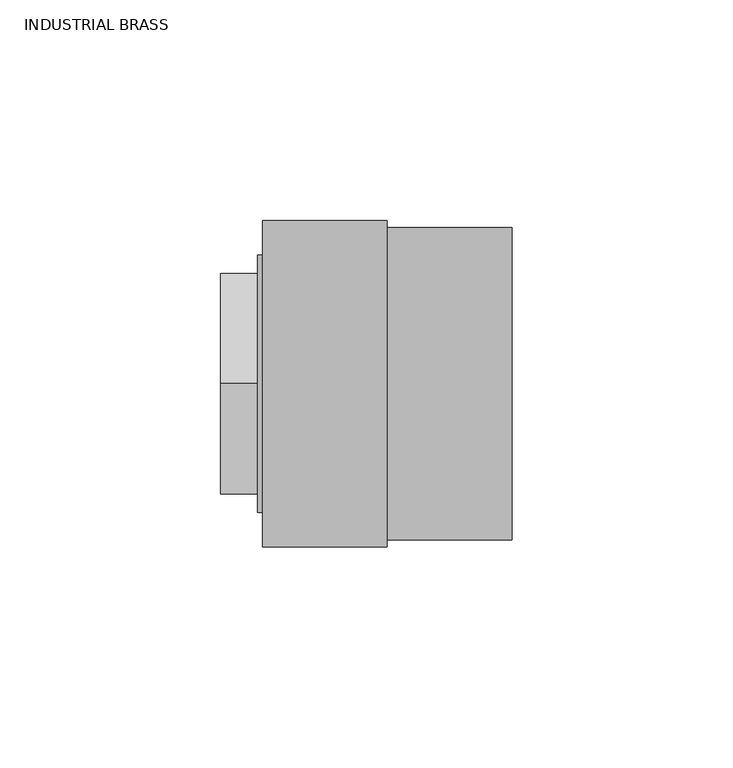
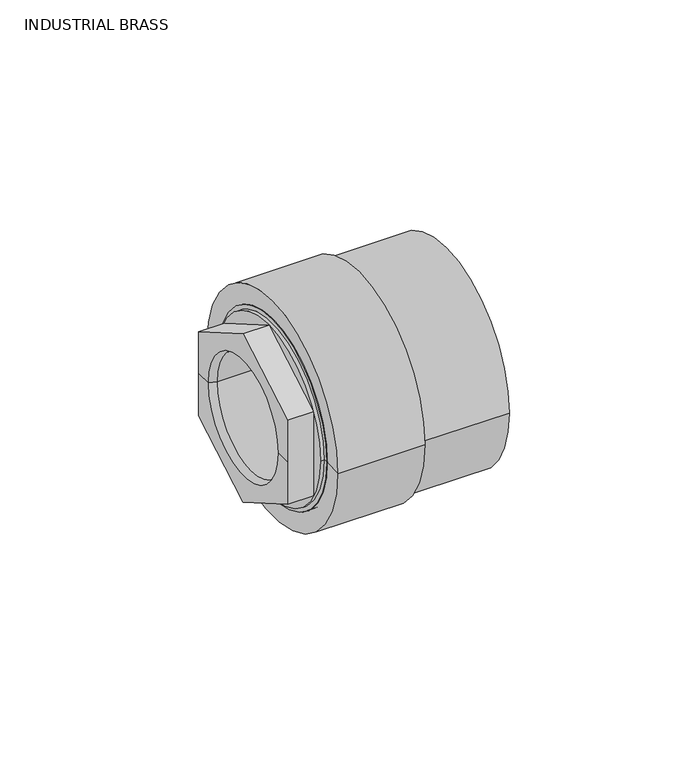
"""IFC4 building model written with IfcOpenShell, lengths in millimetres: valve geometry, Aquatherm - Transition Piece - F HEX : INDUSTRIAL BRASS."""

import ifcopenshell
import ifcopenshell.guid

model = None  # the IFC model being written
_history = None  # IfcOwnerHistory: only IFC2X3 demands one
_inside = {}  # id of a spatial element -> (the spatial element, [elements in it])
_under = {}  # id of a project, library or spatial element -> (it, [spatial elements below it])
_declared = {}  # id of a project -> (the project, [libraries it declares])
_typed = {}  # id of a type object -> (the type object, [elements of that type])
_made_of = {}  # id of a material, layer set ... -> (it, [elements and type objects made of it])


def new_model(schema):
    """Start an empty IFC model of exactly this schema.

    Asked for "IFC4X3", IfcOpenShell would pick the latest addendum, in which some entities
    have other attributes; the version numbers below select the first issue.
    IFC2X3 requires an IfcOwnerHistory on every rooted entity: one is made here for all.
    """
    global model, _history
    if schema == "IFC4X3":
        model = ifcopenshell.file(schema_version=(4, 3, 0, 0))
    else:
        model = ifcopenshell.file(schema=schema)
    _inside.clear()
    _under.clear()
    _declared.clear()
    _typed.clear()
    _made_of.clear()
    _history = None
    if model.schema == "IFC2X3":
        org = make("IfcOrganization", Name="unknown")
        user = make(
            "IfcPersonAndOrganization",
            ThePerson=make("IfcPerson", FamilyName="unknown"),
            TheOrganization=org,
        )
        app = make(
            "IfcApplication",
            ApplicationDeveloper=org,
            Version="unknown",
            ApplicationFullName="unknown",
            ApplicationIdentifier="unknown",
        )
        _history = make(
            "IfcOwnerHistory",
            OwningUser=user,
            OwningApplication=app,
            ChangeAction="ADDED",
            CreationDate=0,
        )
    return model


def make(cls, **values):
    """One entity of the class cls with the attributes given. An attribute that is None is left unset."""
    return model.create_entity(
        cls, **{name: value for name, value in values.items() if value is not None}
    )


def rooted(cls, **values):
    """An entity with a GlobalId (a new one), such as an element, a storey or a relation."""
    return make(cls, GlobalId=ifcopenshell.guid.new(), OwnerHistory=_history, **values)


def si_unit(unit_type, name, prefix=None):
    """IfcSIUnit, for example si_unit("LENGTHUNIT", "METRE", prefix="MILLI")."""
    return make("IfcSIUnit", UnitType=unit_type, Prefix=prefix, Name=name)


def assignment(units):
    """IfcUnitAssignment: the units of a project."""
    return None if units is None else make("IfcUnitAssignment", Units=units)


def point(xyz):
    """IfcCartesianPoint."""
    return None if xyz is None else make("IfcCartesianPoint", Coordinates=xyz)


def direction(xyz):
    """IfcDirection."""
    return None if xyz is None else make("IfcDirection", DirectionRatios=xyz)


def frame(location, z_axis=None, x_axis=None):
    """IfcAxis2Placement3D, a coordinate frame: its origin and axes. An axis left out is left unset."""
    return make(
        "IfcAxis2Placement3D",
        Location=point(location),
        Axis=direction(z_axis),
        RefDirection=direction(x_axis),
    )


def origin():
    """The frame at (0, 0, 0) with its axes left unset."""
    return frame((0.0, 0.0, 0.0))


def place(relative_to, where):
    """IfcLocalPlacement: puts the frame where relative to a parent placement (None: the world)."""
    return make(
        "IfcLocalPlacement", PlacementRelTo=relative_to, RelativePlacement=where
    )


def context(
    kind, dimensions, precision=None, world=None, true_north=None, identifier=None
):
    """IfcGeometricRepresentationContext, for example the 3D "Model" context."""
    return make(
        "IfcGeometricRepresentationContext",
        ContextIdentifier=identifier,
        ContextType=kind,
        CoordinateSpaceDimension=dimensions,
        Precision=precision,
        WorldCoordinateSystem=world,
        TrueNorth=true_north,
    )


def project(units=None, contexts=None):
    """IfcProject with its units and contexts."""
    return rooted(
        "IfcProject",
        Name="project",
        RepresentationContexts=contexts,
        UnitsInContext=assignment(units),
    )


def spatial(cls, under=None, at=None, **own):
    """A site, building, storey or space (cls), placed at a placement, below another one or the project."""
    s = rooted(cls, ObjectPlacement=at, **own)
    if under is not None:
        _under.setdefault(under.id(), (under, []))[1].append(s)
    return s


def polyline(points):
    """IfcPolyline through the points."""
    return make("IfcPolyline", Points=[point(p) for p in points])


def circle_curve(where, radius):
    """IfcCircle in the frame where."""
    return make("IfcCircle", Position=where, Radius=radius)


def shape(context_of_items, identifier, shape_type, items):
    """IfcShapeRepresentation: the items that make up one representation, for example the "Body"."""
    return make(
        "IfcShapeRepresentation",
        ContextOfItems=context_of_items,
        RepresentationIdentifier=identifier,
        RepresentationType=shape_type,
        Items=items,
    )


def source(mapping_origin, context_of_items, identifier, shape_type, items):
    """IfcRepresentationMap: a shape defined once, which mapped items show again and again."""
    return make(
        "IfcRepresentationMap",
        MappingOrigin=mapping_origin,
        MappedRepresentation=shape(context_of_items, identifier, shape_type, items),
    )


def transform(
    local_origin,
    x_axis=None,
    y_axis=None,
    z_axis=None,
    scale=None,
    scale2=None,
    scale3=None,
    uniform=True,
):
    """IfcCartesianTransformationOperator3D, or its non-uniform kind. x_axis, y_axis, z_axis: its Axis1, 2, 3."""
    if uniform:
        return make(
            "IfcCartesianTransformationOperator3D",
            Axis1=direction(x_axis),
            Axis2=direction(y_axis),
            LocalOrigin=point(local_origin),
            Scale=scale,
            Axis3=direction(z_axis),
        )
    return make(
        "IfcCartesianTransformationOperator3DnonUniform",
        Axis1=direction(x_axis),
        Axis2=direction(y_axis),
        LocalOrigin=point(local_origin),
        Scale=scale,
        Axis3=direction(z_axis),
        Scale2=scale2,
        Scale3=scale3,
    )


def mapped(mapping_source, mapping_target):
    """IfcMappedItem: shows the shape of a source again, moved by a transform."""
    return make(
        "IfcMappedItem", MappingSource=mapping_source, MappingTarget=mapping_target
    )


def made_of(thing, what):
    """Note that an element or type object is made of a material, layer set ...; save() writes the relation."""
    if what is not None:
        _made_of.setdefault(what.id(), (what, []))[1].append(thing)
    return thing


def element(
    cls,
    number,
    at=None,
    inside=None,
    cuts=None,
    type_object=None,
    material=None,
    context=None,
    identifier="Body",
    shape_type=None,
    held_by="IfcProductDefinitionShape",
    body=None,
    shapes=None,
    **own,
):
    """One element of the class cls, such as IfcWall. Its Tag is "e" and its number.

    at: its placement. inside: the storey or other place that contains it. cuts: it is an
    opening in that element (IfcRelVoidsElement). A single representation is given by context,
    identifier, shape_type and body (its items); several are given by shapes. held_by: the class
    of the entity that holds the representations. save() writes the other relations.
    """
    e = rooted(cls, Tag="e%d" % number, ObjectPlacement=at, **own)
    if body is not None:
        shapes = [shape(context, identifier, shape_type, body)]
    if shapes is not None:
        e.Representation = make(held_by, Representations=shapes)
    if inside is not None:
        _inside.setdefault(inside.id(), (inside, []))[1].append(e)
    if cuts is not None:
        rooted(
            "IfcRelVoidsElement", RelatingBuildingElement=cuts, RelatedOpeningElement=e
        )
    if type_object is not None:
        _typed.setdefault(type_object.id(), (type_object, []))[1].append(e)
    return made_of(e, material)


def aggregate(whole, parts):
    """IfcRelAggregates: a whole, such as a stair, and the parts it consists of."""
    return rooted("IfcRelAggregates", RelatingObject=whole, RelatedObjects=parts)


def save(model, path):
    """Write the relations noted so far, then the file.

    IfcRelAggregates (storeys below a building ...), IfcRelContainedInSpatialStructure (elements
    in a storey), IfcRelDefinesByType, IfcRelAssociatesMaterial and IfcRelDeclares: one each for
    every whole, place, type object, material and project.
    """
    for whole, parts in _under.values():
        aggregate(whole, parts)
    for where, things in _inside.values():
        rooted(
            "IfcRelContainedInSpatialStructure",
            RelatedElements=things,
            RelatingStructure=where,
        )
    for kind, things in _typed.values():
        rooted("IfcRelDefinesByType", RelatedObjects=things, RelatingType=kind)
    for what, things in _made_of.values():
        rooted("IfcRelAssociatesMaterial", RelatedObjects=things, RelatingMaterial=what)
    for by, libraries in _declared.values():
        rooted("IfcRelDeclares", RelatingContext=by, RelatedDefinitions=libraries)
    model.write(path)


def plane_surface(at):
    """IfcPlane: the flat surface through the origin of the frame at, square to its z axis."""
    return make("IfcPlane", Position=at)


def cylinder_surface(at, radius):
    """IfcCylindricalSurface: all points at the distance radius from the z axis of the frame at."""
    return make("IfcCylindricalSurface", Position=at, Radius=radius)


def revolved_surface(curve, axis_point, axis_direction):
    """IfcSurfaceOfRevolution: the curve turned about the line through axis_point along axis_direction."""
    return make(
        "IfcSurfaceOfRevolution",
        SweptCurve=make("IfcArbitraryOpenProfileDef", ProfileType="CURVE", Curve=curve),
        AxisPosition=make("IfcAxis1Placement", Location=point(axis_point), Axis=direction(axis_direction)),
    )


def advanced_brep(points, edges, surfaces, faces):
    """IfcAdvancedBrep: a solid bounded by faces that lie on surfaces and meet in shared edges.

    An edge is (start, end): straight between two places in points (the first is 0);
    or (start, end, curve); or (start, end, curve, False) where it runs against its curve.
    A face is (place in surfaces, loops), or (place, loops, False) where it looks against
    its surface's normal. A loop lists edges by number (the first is 1), with a minus sign
    where the edge is run from its end to its start. The first loop is the outer one.
    """
    corners = [point(p) for p in points]
    vertices = [make("IfcVertexPoint", VertexGeometry=c) for c in corners]
    made = []
    for start, end, *more in edges:
        made.append(
            make(
                "IfcEdgeCurve",
                EdgeStart=vertices[start],
                EdgeEnd=vertices[end],
                EdgeGeometry=more[0] if more else make("IfcPolyline", Points=[corners[start], corners[end]]),
                SameSense=more[1] if len(more) > 1 else True,
            )
        )
    hull = []
    for where, loops, *sense in faces:
        bounds = []
        for j, loop in enumerate(loops):
            ring = [make("IfcOrientedEdge", EdgeElement=made[abs(k) - 1], Orientation=k > 0) for k in loop]
            bounds.append(
                make(
                    "IfcFaceOuterBound" if j == 0 else "IfcFaceBound",
                    Bound=make("IfcEdgeLoop", EdgeList=ring),
                    Orientation=True,
                )
            )
        hull.append(make("IfcAdvancedFace", Bounds=bounds, FaceSurface=surfaces[where], SameSense=sense[0] if sense else True))
    return make("IfcAdvancedBrep", Outer=make("IfcClosedShell", CfsFaces=hull))


def industrial_brass_5bee25e9(model_context):
    return source(origin(), model_context, "Body", "AdvancedBrep", [
        advanced_brep(
        [(8.73125, -19.05, 0.0), (8.73125, 19.05, 0.0), (-6.9453125, 19.05, 0.0), (-6.9453125, -19.05, 0.0), (8.73125, -19.84375, 0.0), (8.73125, 19.84375, 0.0), (11.90625, -19.84375, 0.0), (11.90625, 19.84375, 0.0), (11.90625, -15.875, 0.0), (11.90625, 15.875, 0.0), (15.08125, -15.875, 0.0), (15.08125, 15.875, 0.0), (15.08125, -30.607, 0.0), (15.08125, 30.607, 0.0), (0.0, -30.607, 0.0), (0.0, 30.607, 0.0), (-9.525, -19.84375, 0.0), (-9.525, 19.84375, 0.0), (-9.525, 25.019, 0.0), (-9.525, 25.019, -14.4447264), (-9.525, 0.0, -28.8894528), (-9.525, -25.019, -14.4447264), (-9.525, -25.019, 0.0), (-9.525, -25.019, 14.4447264), (-9.525, 0.0, 28.8894528), (-9.525, 25.019, 14.4447264), (0.0, -29.21, 0.0), (0.0, 29.21, 0.0), (-1.190625, -29.21, 0.0), (-1.190625, 29.21, 0.0), (-1.190625, 0.0, -28.8894528), (-1.190625, 25.019, -14.4447264), (-1.190625, 25.019, 14.4447264), (-1.190625, 0.0, 28.8894528), (-1.190625, -25.019, 14.4447264), (-1.190625, -25.019, -14.4447264)],
        [
            (0, 1, circle_curve(frame((8.73125, 0.0, 0.0), z_axis=(1.0, 0.0, 0.0), x_axis=(0.0, 1.0, 0.0)), 19.05)),
            (1, 2),
            (2, 3, circle_curve(frame((-6.9453125, 0.0, 0.0), z_axis=(-1.0, 0.0, 0.0), x_axis=(0.0, 1.0, 0.0)), 19.05)),
            (3, 0),
            (1, 0, circle_curve(frame((8.73125, 0.0, 0.0), z_axis=(1.0, 0.0, 0.0), x_axis=(0.0, 1.0, 0.0)), 19.05)),
            (3, 2, circle_curve(frame((-6.9453125, 0.0, 0.0), z_axis=(-1.0, 0.0, 0.0), x_axis=(0.0, 1.0, 0.0)), 19.05)),
            (0, 4),
            (4, 5, circle_curve(frame((8.73125, 0.0, 0.0), z_axis=(1.0, 0.0, 0.0), x_axis=(0.0, 1.0, 0.0)), 19.84375)),
            (5, 1),
            (5, 4, circle_curve(frame((8.73125, 0.0, 0.0), z_axis=(1.0, 0.0, 0.0), x_axis=(0.0, 1.0, 0.0)), 19.84375)),
            (4, 6),
            (6, 7, circle_curve(frame((11.90625, 0.0, 0.0), z_axis=(1.0, 0.0, 0.0), x_axis=(0.0, 1.0, 0.0)), 19.84375)),
            (7, 5),
            (7, 6, circle_curve(frame((11.90625, 0.0, 0.0), z_axis=(1.0, 0.0, 0.0), x_axis=(0.0, 1.0, 0.0)), 19.84375)),
            (6, 8),
            (8, 9, circle_curve(frame((11.90625, 0.0, 0.0), z_axis=(1.0, 0.0, 0.0), x_axis=(0.0, 1.0, 0.0)), 15.875)),
            (9, 7),
            (9, 8, circle_curve(frame((11.90625, 0.0, 0.0), z_axis=(1.0, 0.0, 0.0), x_axis=(0.0, 1.0, 0.0)), 15.875)),
            (8, 10),
            (10, 11, circle_curve(frame((15.08125, 0.0, 0.0), z_axis=(1.0, 0.0, 0.0), x_axis=(0.0, 1.0, 0.0)), 15.875)),
            (11, 9),
            (11, 10, circle_curve(frame((15.08125, 0.0, 0.0), z_axis=(1.0, 0.0, 0.0), x_axis=(0.0, 1.0, 0.0)), 15.875)),
            (10, 12),
            (12, 13, circle_curve(frame((15.08125, 0.0, 0.0), z_axis=(1.0, 0.0, 0.0), x_axis=(0.0, 1.0, 0.0)), 30.607)),
            (13, 11),
            (13, 12, circle_curve(frame((15.08125, 0.0, 0.0), z_axis=(1.0, 0.0, 0.0), x_axis=(0.0, 1.0, 0.0)), 30.607)),
            (12, 14),
            (14, 15, circle_curve(frame((0.0, 0.0, 0.0), z_axis=(1.0, 0.0, 0.0), x_axis=(0.0, 1.0, 0.0)), 30.607)),
            (15, 13),
            (15, 14, circle_curve(frame((0.0, 0.0, 0.0), z_axis=(1.0, 0.0, 0.0), x_axis=(0.0, 1.0, 0.0)), 30.607)),
            (16, 17, circle_curve(frame((-9.525, 0.0, 0.0), z_axis=(1.0, 0.0, 0.0), x_axis=(0.0, 1.0, 0.0)), 19.84375)),
            (17, 18),
            (18, 19),
            (19, 20),
            (20, 21),
            (21, 22),
            (22, 16),
            (17, 16, circle_curve(frame((-9.525, 0.0, 0.0), z_axis=(1.0, 0.0, 0.0), x_axis=(0.0, 1.0, 0.0)), 19.84375)),
            (22, 23),
            (23, 24),
            (24, 25),
            (25, 18),
            (2, 17),
            (16, 3),
            (14, 26),
            (26, 27, circle_curve(frame((0.0, 0.0, 0.0), z_axis=(1.0, 0.0, 0.0), x_axis=(0.0, 1.0, 0.0)), 29.21)),
            (27, 15),
            (27, 26, circle_curve(frame((0.0, 0.0, 0.0), z_axis=(1.0, 0.0, 0.0), x_axis=(0.0, 1.0, 0.0)), 29.21)),
            (26, 28),
            (28, 29, circle_curve(frame((-1.190625, 0.0, 0.0), z_axis=(1.0, 0.0, 0.0), x_axis=(0.0, 1.0, 0.0)), 29.21)),
            (29, 27),
            (29, 28, circle_curve(frame((-1.190625, 0.0, 0.0), z_axis=(1.0, 0.0, 0.0), x_axis=(0.0, 1.0, 0.0)), 29.21)),
            (30, 31),
            (31, 32),
            (32, 33),
            (33, 34),
            (34, 35),
            (35, 30),
            (35, 21),
            (20, 30),
            (34, 23),
            (33, 24),
            (32, 25),
            (31, 19),
        ],
        [
            revolved_surface(polyline([(-6.9453125, 19.05, 0.0), (8.731250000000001, 19.05, 0.0)]), (-11.3582251, 0.0, 0.0), (-1.0, 0.0, 0.0)),
            plane_surface(frame((8.73125, 0.0, 0.0), z_axis=(1.0, 0.0, 0.0), x_axis=(0.0, 1.0, 0.0))),
            revolved_surface(polyline([(8.731250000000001, 19.84375, 0.0), (11.906249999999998, 19.84375, 0.0)]), (-11.3582251, 0.0, 0.0), (-1.0, 0.0, 0.0)),
            plane_surface(frame((11.90625, 0.0, 0.0), z_axis=(-1.0, 0.0, 0.0), x_axis=(0.0, 1.0, 0.0))),
            revolved_surface(polyline([(11.906249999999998, 15.875, 0.0), (15.081250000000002, 15.875, 0.0)]), (-11.3582251, 0.0, 0.0), (-1.0, 0.0, 0.0)),
            plane_surface(frame((15.08125, 0.0, 0.0), z_axis=(1.0, 0.0, 0.0), x_axis=(0.0, 1.0, 0.0))),
            cylinder_surface(frame((-11.3582251, 0.0, 0.0), z_axis=(-1.0, 0.0, 0.0), x_axis=(0.0, 1.0, 0.0)), 30.607),
            plane_surface(frame((-9.525, 0.0, 0.0), z_axis=(-1.0, 0.0, 0.0), x_axis=(0.0, 1.0, 0.0))),
            revolved_surface(polyline([(-9.525, 19.84375, 0.0), (-6.9453125, 19.05, 0.0)]), (-11.3582251, 0.0, 0.0), (-1.0, 0.0, 0.0)),
            plane_surface(frame((0.0, 0.0, 0.0), z_axis=(-1.0, 0.0, 0.0), x_axis=(0.0, 1.0, 0.0))),
            cylinder_surface(frame((-11.3582251, 0.0, 0.0), z_axis=(-1.0, 0.0, 0.0), x_axis=(0.0, 1.0, 0.0)), 29.21),
            plane_surface(frame((-1.190625, -25.019, -14.4447264), z_axis=(-1.0, 0.0, 0.0), x_axis=(0.0, -0.8660254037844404, 0.499999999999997))),
            plane_surface(frame((-1.190625, 0.0, -28.8894528), z_axis=(0.0, -0.499999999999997, -0.8660254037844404), x_axis=(-1.0, 0.0, 0.0))),
            plane_surface(frame((-1.190625, -25.019, -14.4447264), z_axis=(0.0, -1.0, 0.0), x_axis=(-1.0, 0.0, 0.0))),
            plane_surface(frame((-1.190625, -25.019, 14.4447264), z_axis=(0.0, -0.5000000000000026, 0.8660254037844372), x_axis=(-1.0, 0.0, 0.0))),
            plane_surface(frame((-1.190625, 0.0, 28.8894528), z_axis=(0.0, 0.49999999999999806, 0.8660254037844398), x_axis=(-1.0, 0.0, 0.0))),
            plane_surface(frame((-1.190625, 25.019, 14.4447264), z_axis=(0.0, 1.0, 0.0), x_axis=(-1.0, 0.0, 0.0))),
            plane_surface(frame((-1.190625, 25.019, -14.4447264), z_axis=(0.0, 0.5000000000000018, -0.8660254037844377), x_axis=(-1.0, 0.0, 0.0))),
        ],
        [
            (0, [[1, 2, 3, 4]]),
            (0, [[-2, 5, -4, 6]]),
            (1, [[-1, 7, 8, 9]]),
            (1, [[-5, -9, 10, -7]]),
            (2, [[-8, 11, 12, 13]]),
            (2, [[-10, -13, 14, -11]]),
            (3, [[-12, 15, 16, 17]]),
            (3, [[-14, -17, 18, -15]]),
            (4, [[-16, 19, 20, 21]]),
            (4, [[-18, -21, 22, -19]]),
            (5, [[-20, 23, 24, 25]]),
            (5, [[-22, -25, 26, -23]]),
            (6, [[-24, 27, 28, 29]]),
            (6, [[-26, -29, 30, -27]]),
            (7, [[31, 32, 33, 34, 35, 36, 37]]),
            (7, [[38, -37, 39, 40, 41, 42, -32]]),
            (8, [[-3, 43, -31, 44]]),
            (8, [[-6, -44, -38, -43]]),
            (9, [[-28, 45, 46, 47]]),
            (9, [[-30, -47, 48, -45]]),
            (10, [[-46, 49, 50, 51]]),
            (10, [[-48, -51, 52, -49]]),
            (11, [[-50, -52], [53, 54, 55, 56, 57, 58]]),
            (12, [[-58, 59, -35, 60]]),
            (13, [[-57, 61, -39, -36, -59]]),
            (14, [[-56, 62, -40, -61]]),
            (15, [[-55, 63, -41, -62]]),
            (16, [[-54, 64, -33, -42, -63]]),
            (17, [[-53, -60, -34, -64]]),
        ],
    ),
        advanced_brep(
        [(0.0, -36.957, 0.0), (0.0, 36.957, 0.0), (28.194, 36.957, 0.0), (28.194, -36.957, 0.0), (0.0, -30.607, 0.0), (0.0, 30.607, 0.0), (15.08125, -30.607, 0.0), (15.08125, 30.607, 0.0), (15.08125, -15.875, 0.0), (15.08125, 15.875, 0.0), (33.147, -15.875, 0.0), (33.147, 15.875, 0.0), (33.147, -25.019, 0.0), (33.147, 25.019, 0.0), (56.515, -25.019, 0.0), (56.515, 25.019, 0.0), (56.515, -35.3695, 0.0), (56.515, 35.3695, 0.0), (28.194, -35.3695, 0.0), (28.194, 35.3695, 0.0)],
        [
            (0, 1, circle_curve(frame((0.0, 0.0, 0.0), z_axis=(1.0, 0.0, 0.0), x_axis=(0.0, 1.0, 0.0)), 36.957)),
            (1, 2),
            (2, 3, circle_curve(frame((28.194, 0.0, 0.0), z_axis=(-1.0, 0.0, 0.0), x_axis=(0.0, 1.0, 0.0)), 36.957)),
            (3, 0),
            (1, 0, circle_curve(frame((0.0, 0.0, 0.0), z_axis=(1.0, 0.0, 0.0), x_axis=(0.0, 1.0, 0.0)), 36.957)),
            (3, 2, circle_curve(frame((28.194, 0.0, 0.0), z_axis=(-1.0, 0.0, 0.0), x_axis=(0.0, 1.0, 0.0)), 36.957)),
            (4, 5, circle_curve(frame((0.0, 0.0, 0.0), z_axis=(1.0, 0.0, 0.0), x_axis=(0.0, 1.0, 0.0)), 30.607)),
            (5, 1),
            (0, 4),
            (5, 4, circle_curve(frame((0.0, 0.0, 0.0), z_axis=(1.0, 0.0, 0.0), x_axis=(0.0, 1.0, 0.0)), 30.607)),
            (6, 7, circle_curve(frame((15.08125, 0.0, 0.0), z_axis=(1.0, 0.0, 0.0), x_axis=(0.0, 1.0, 0.0)), 30.607)),
            (7, 5),
            (4, 6),
            (7, 6, circle_curve(frame((15.08125, 0.0, 0.0), z_axis=(1.0, 0.0, 0.0), x_axis=(0.0, 1.0, 0.0)), 30.607)),
            (8, 9, circle_curve(frame((15.08125, 0.0, 0.0), z_axis=(1.0, 0.0, 0.0), x_axis=(0.0, 1.0, 0.0)), 15.875)),
            (9, 7),
            (6, 8),
            (9, 8, circle_curve(frame((15.08125, 0.0, 0.0), z_axis=(1.0, 0.0, 0.0), x_axis=(0.0, 1.0, 0.0)), 15.875)),
            (10, 11, circle_curve(frame((33.147, 0.0, 0.0), z_axis=(1.0, 0.0, 0.0), x_axis=(0.0, 1.0, 0.0)), 15.875)),
            (11, 9),
            (8, 10),
            (11, 10, circle_curve(frame((33.147, 0.0, 0.0), z_axis=(1.0, 0.0, 0.0), x_axis=(0.0, 1.0, 0.0)), 15.875)),
            (12, 13, circle_curve(frame((33.147, 0.0, 0.0), z_axis=(1.0, 0.0, 0.0), x_axis=(0.0, 1.0, 0.0)), 25.019)),
            (13, 11),
            (10, 12),
            (13, 12, circle_curve(frame((33.147, 0.0, 0.0), z_axis=(1.0, 0.0, 0.0), x_axis=(0.0, 1.0, 0.0)), 25.019)),
            (14, 15, circle_curve(frame((56.515, 0.0, 0.0), z_axis=(1.0, 0.0, 0.0), x_axis=(0.0, 1.0, 0.0)), 25.019)),
            (15, 13),
            (12, 14),
            (15, 14, circle_curve(frame((56.515, 0.0, 0.0), z_axis=(1.0, 0.0, 0.0), x_axis=(0.0, 1.0, 0.0)), 25.019)),
            (16, 17, circle_curve(frame((56.515, 0.0, 0.0), z_axis=(1.0, 0.0, 0.0), x_axis=(0.0, 1.0, 0.0)), 35.3695)),
            (17, 15),
            (14, 16),
            (17, 16, circle_curve(frame((56.515, 0.0, 0.0), z_axis=(1.0, 0.0, 0.0), x_axis=(0.0, 1.0, 0.0)), 35.3695)),
            (18, 19, circle_curve(frame((28.194, 0.0, 0.0), z_axis=(1.0, 0.0, 0.0), x_axis=(0.0, 1.0, 0.0)), 35.3695)),
            (19, 17),
            (16, 18),
            (19, 18, circle_curve(frame((28.194, 0.0, 0.0), z_axis=(1.0, 0.0, 0.0), x_axis=(0.0, 1.0, 0.0)), 35.3695)),
            (2, 19),
            (18, 3),
        ],
        [
            cylinder_surface(frame((-17.6281162, 0.0, 0.0), z_axis=(-1.0, 0.0, 0.0), x_axis=(0.0, 1.0, 0.0)), 36.957),
            plane_surface(frame((0.0, 0.0, 0.0), z_axis=(-1.0, 0.0, 0.0), x_axis=(0.0, 1.0, 0.0))),
            revolved_surface(polyline([(0.0, 30.607, 0.0), (15.081250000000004, 30.607, 0.0)]), (-17.6281162, 0.0, 0.0), (-1.0, 0.0, 0.0)),
            plane_surface(frame((15.08125, 0.0, 0.0), z_axis=(-1.0, 0.0, 0.0), x_axis=(0.0, 1.0, 0.0))),
            revolved_surface(polyline([(15.081250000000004, 15.875, 0.0), (33.147, 15.875, 0.0)]), (-17.6281162, 0.0, 0.0), (-1.0, 0.0, 0.0)),
            plane_surface(frame((33.147, 0.0, 0.0), z_axis=(1.0, 0.0, 0.0), x_axis=(0.0, 1.0, 0.0))),
            revolved_surface(polyline([(33.147, 25.019, 0.0), (56.51500000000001, 25.019, 0.0)]), (-17.6281162, 0.0, 0.0), (-1.0, 0.0, 0.0)),
            plane_surface(frame((56.515, 0.0, 0.0), z_axis=(1.0, 0.0, 0.0), x_axis=(0.0, 1.0, 0.0))),
            cylinder_surface(frame((-17.6281162, 0.0, 0.0), z_axis=(-1.0, 0.0, 0.0), x_axis=(0.0, 1.0, 0.0)), 35.3695),
            plane_surface(frame((28.194, 0.0, 0.0), z_axis=(1.0, 0.0, 0.0), x_axis=(0.0, 1.0, 0.0))),
        ],
        [
            (0, [[1, 2, 3, 4]]),
            (0, [[5, -4, 6, -2]]),
            (1, [[7, 8, -1, 9]]),
            (1, [[10, -9, -5, -8]]),
            (2, [[11, 12, -7, 13]]),
            (2, [[14, -13, -10, -12]]),
            (3, [[15, 16, -11, 17]]),
            (3, [[18, -17, -14, -16]]),
            (4, [[19, 20, -15, 21]]),
            (4, [[22, -21, -18, -20]]),
            (5, [[23, 24, -19, 25]]),
            (5, [[26, -25, -22, -24]]),
            (6, [[27, 28, -23, 29]]),
            (6, [[30, -29, -26, -28]]),
            (7, [[31, 32, -27, 33]]),
            (7, [[34, -33, -30, -32]]),
            (8, [[35, 36, -31, 37]]),
            (8, [[38, -37, -34, -36]]),
            (9, [[-3, 39, -35, 40]]),
            (9, [[-6, -40, -38, -39]]),
        ],
    ),
    ])


if __name__ == "__main__":
    model = new_model("IFC4")
    model_context = context("Model", 3, world=origin())
    ifc_project = project(units=[si_unit("LENGTHUNIT", "METRE", prefix="MILLI")], contexts=[model_context])
    site = spatial("IfcSite", under=ifc_project)
    building = spatial("IfcBuilding", under=site)
    placement = place(None, origin())
    industrial_brass_shape = industrial_brass_5bee25e9(model_context)
    element("IfcValve", 1, ObjectType="Aquatherm - Transition Piece - F HEX : INDUSTRIAL BRASS", at=placement, inside=building, context=model_context, shape_type="MappedRepresentation", body=[
        mapped(industrial_brass_shape, transform((0.0, 0.0, 0.0), x_axis=(1.0, 0.0, 0.0), y_axis=(0.0, 1.0, 0.0), z_axis=(0.0, 0.0, 1.0))),
    ])
    save(model, "model.ifc")
